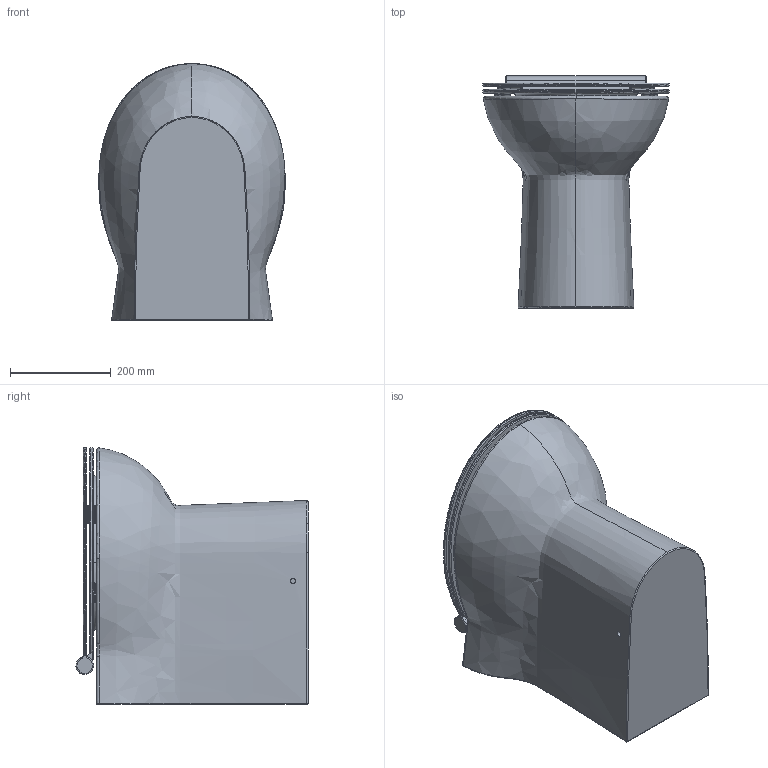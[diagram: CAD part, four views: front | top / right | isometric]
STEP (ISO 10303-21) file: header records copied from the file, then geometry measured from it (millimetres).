
FILE_DESCRIPTION (( 'STEP AP203' ), '1' );
FILE_NAME ('FAVCTP000000.STEP', '2019-05-22T13:26:54', ( '' ), ( '' ), 'SwSTEP 2.0', 'SolidWorks 2019', '' );
FILE_SCHEMA (( 'CONFIG_CONTROL_DESIGN' ));
Length unit declared in the file: millimetre
Products named in the file (5): FAVCTP000000; FAST COPRIWATER coperchio; WC FAST; FAST COPRIWATER; FAST COPRIWATER ciambella
Assembly tree (4 placements, depth 3):
  FAVCTP000000
    WC FAST
    FAST COPRIWATER
      FAST COPRIWATER ciambella
      FAST COPRIWATER coperchio
Bounding box: 369.97 x 460.79 x 510 mm (x, y, z)
Volume: 30436309 mm3; surface area: 1481755.5 mm2
Topology: 3 solids, 3 shells, 380 faces, 906 edges, 533 vertices
Faces by surface type: cylinder 115, bspline 104, torus 97, plane 58, cone 4, sphere 2
Entity records: 31709 total; most frequent: CARTESIAN_POINT 22984, ORIENTED_EDGE 1788, DIRECTION 1692, EDGE_CURVE 894, AXIS2_PLACEMENT_3D 741, VERTEX_POINT 533, CIRCLE 457, EDGE_LOOP 403
